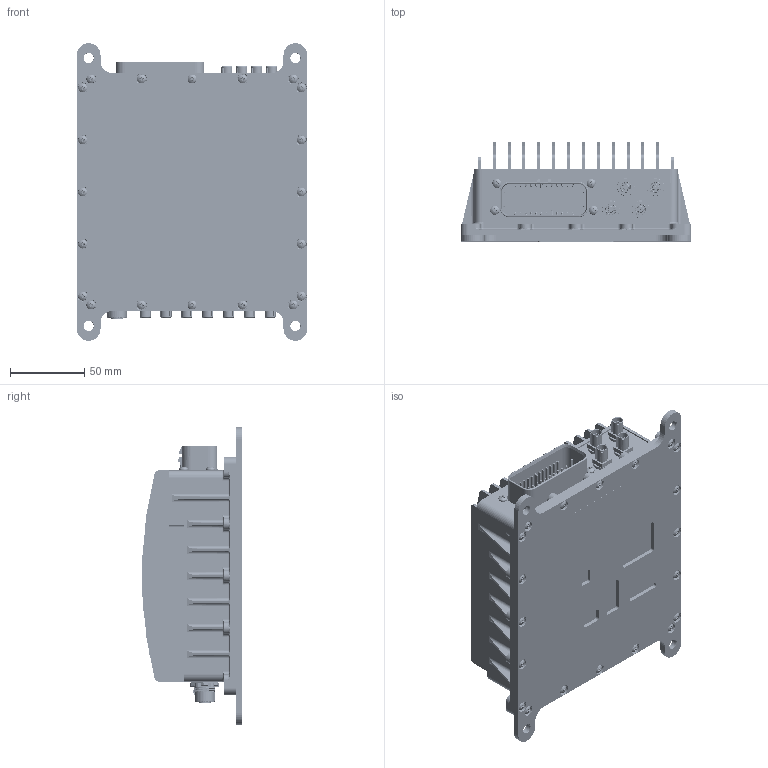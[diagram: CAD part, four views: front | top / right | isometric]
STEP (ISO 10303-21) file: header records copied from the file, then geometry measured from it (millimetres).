
FILE_DESCRIPTION (( 'STEP AP214' ), '1' );
FILE_NAME ('Assembly, ESG615-xx, NX System - Falcon_Website.STEP', '2026-05-07T14:53:57', ( '' ), ( '' ), 'SwSTEP 2.0', 'SolidWorks 2025', '' );
FILE_SCHEMA (( 'AUTOMOTIVE_DESIGN' ));
Length unit declared in the file: millimetre
Products named in the file (1): Assembly, ESG615-xx, NX System - Falcon_Website
Bounding box: 155 x 67.01 x 200 mm (x, y, z)
Volume: 868400.6 mm3; surface area: 295892.2 mm2
Topology: 57 solids, 115 shells, 9703 faces, 25700 edges, 16363 vertices
Faces by surface type: cylinder 3903, plane 2804, bspline 1616, cone 1057, torus 249, sphere 74
Entity records: 604077 total; most frequent: CARTESIAN_POINT 382381, ORIENTED_EDGE 50902, DIRECTION 41634, EDGE_CURVE 25451, VERTEX_POINT 16337, AXIS2_PLACEMENT_3D 15371, VECTOR 10892, LINE 10892
